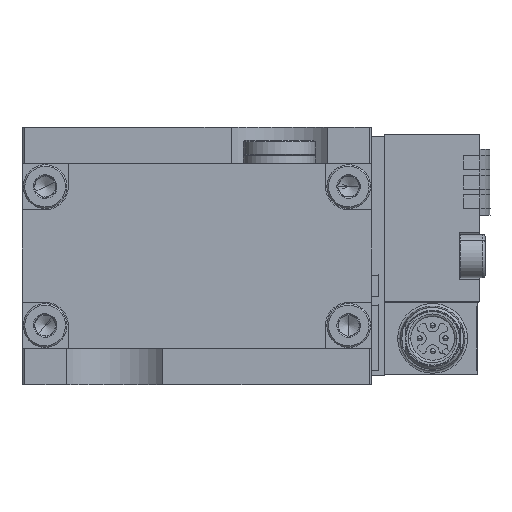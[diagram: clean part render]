
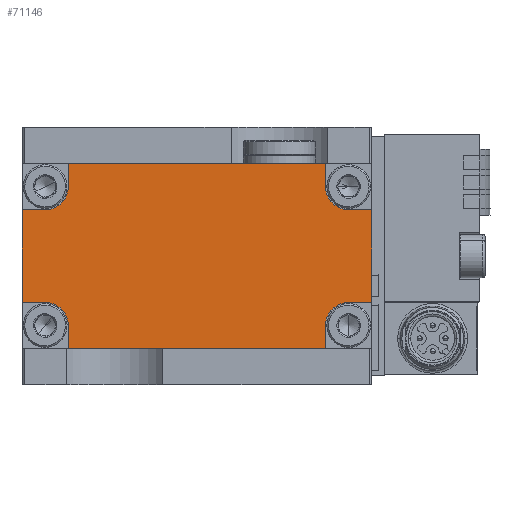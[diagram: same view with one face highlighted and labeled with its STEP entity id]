
A CAD part, front view. The second image highlights one B-rep face of the part: STEP entity #71146.
In plain terms, the highlighted planar face has unit normal (0, -1, 0).
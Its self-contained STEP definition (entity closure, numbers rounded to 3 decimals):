
#48 = ORIENTED_EDGE ( 'NONE', *, *, #70785, .F. ) ;
#230 = LINE ( 'NONE', #40573, #41054 ) ;
#1007 = EDGE_LOOP ( 'NONE', ( #48, #63358, #36615, #27541, #43648, #23048, #37932, #64831, #71268, #20960, #52073, #62107, #35056, #46012, #28988, #27210 ) ) ;
#2124 = CARTESIAN_POINT ( 'NONE',  ( 29.5, -170.65, 9. ) ) ;
#2286 = DIRECTION ( 'NONE',  ( -1., 0., 0. ) ) ;
#2306 = AXIS2_PLACEMENT_3D ( 'NONE', #62624, #35161, #15659 ) ;
#2506 = LINE ( 'NONE', #12687, #12091 ) ;
#2562 = CARTESIAN_POINT ( 'NONE',  ( 29.5, -170.65, -13.5 ) ) ;
#3382 = CARTESIAN_POINT ( 'NONE',  ( 25., -170.65, 13.5 ) ) ;
#3467 = EDGE_CURVE ( 'NONE', #29975, #29570, #56350, .T. ) ;
#3473 = CARTESIAN_POINT ( 'NONE',  ( -34., -170.65, -18. ) ) ;
#3806 = DIRECTION ( 'NONE',  ( 0., 0., -1. ) ) ;
#3825 = LINE ( 'NONE', #3473, #57568 ) ;
#4058 = EDGE_CURVE ( 'NONE', #15563, #38400, #36611, .T. ) ;
#5909 = VERTEX_POINT ( 'NONE', #34661 ) ;
#6116 = LINE ( 'NONE', #32149, #27417 ) ;
#6869 = CARTESIAN_POINT ( 'NONE',  ( -25., -170.65, -13.5 ) ) ;
#6997 = CARTESIAN_POINT ( 'NONE',  ( -25., -170.65, -18. ) ) ;
#7453 = DIRECTION ( 'NONE',  ( 0., 0., 1. ) ) ;
#7660 = DIRECTION ( 'NONE',  ( -1., 0., 0. ) ) ;
#8922 = CARTESIAN_POINT ( 'NONE',  ( 25., -170.65, -18. ) ) ;
#9806 = CARTESIAN_POINT ( 'NONE',  ( 34., -170.65, -9. ) ) ;
#9973 = DIRECTION ( 'NONE',  ( -1., 0., 0. ) ) ;
#11463 = LINE ( 'NONE', #50461, #47292 ) ;
#12091 = VECTOR ( 'NONE', #18095, 1000. ) ;
#12210 = EDGE_CURVE ( 'NONE', #38400, #33331, #15177, .T. ) ;
#12358 = CARTESIAN_POINT ( 'NONE',  ( -29.5, -170.65, 9. ) ) ;
#12687 = CARTESIAN_POINT ( 'NONE',  ( 29.5, -170.65, -9. ) ) ;
#13094 = DIRECTION ( 'NONE',  ( -1., 0., 0. ) ) ;
#13097 = CARTESIAN_POINT ( 'NONE',  ( -34., -170.65, 18. ) ) ;
#13165 = DIRECTION ( 'NONE',  ( 0., -1., 0. ) ) ;
#13822 = CARTESIAN_POINT ( 'NONE',  ( 25., -170.65, 13.5 ) ) ;
#14405 = CARTESIAN_POINT ( 'NONE',  ( -34., -170.65, 9. ) ) ;
#14808 = LINE ( 'NONE', #36443, #47547 ) ;
#14862 = AXIS2_PLACEMENT_3D ( 'NONE', #2562, #63951, #13094 ) ;
#15177 = CIRCLE ( 'NONE', #56656, 4.5 ) ;
#15379 = CARTESIAN_POINT ( 'NONE',  ( 29.5, -170.65, 13.5 ) ) ;
#15563 = VERTEX_POINT ( 'NONE', #56008 ) ;
#15659 = DIRECTION ( 'NONE',  ( -1., 0., 0. ) ) ;
#15822 = DIRECTION ( 'NONE',  ( -1., 0., 0. ) ) ;
#17019 = VECTOR ( 'NONE', #3806, 1000. ) ;
#17314 = EDGE_CURVE ( 'NONE', #62062, #69129, #65958, .T. ) ;
#17470 = VERTEX_POINT ( 'NONE', #50808 ) ;
#17663 = CARTESIAN_POINT ( 'NONE',  ( -25., -170.65, -13.5 ) ) ;
#18095 = DIRECTION ( 'NONE',  ( -1., 0., 0. ) ) ;
#19125 = EDGE_CURVE ( 'NONE', #33331, #5909, #6116, .T. ) ;
#19221 = PLANE ( 'NONE',  #35478 ) ;
#19999 = LINE ( 'NONE', #43079, #55082 ) ;
#20192 = VERTEX_POINT ( 'NONE', #9806 ) ;
#20624 = VERTEX_POINT ( 'NONE', #14405 ) ;
#20960 = ORIENTED_EDGE ( 'NONE', *, *, #54490, .F. ) ;
#21192 = CARTESIAN_POINT ( 'NONE',  ( 29.5, -170.65, -9. ) ) ;
#22126 = EDGE_CURVE ( 'NONE', #69129, #20624, #3825, .T. ) ;
#23048 = ORIENTED_EDGE ( 'NONE', *, *, #26499, .T. ) ;
#23598 = CARTESIAN_POINT ( 'NONE',  ( -25., -170.65, 13.5 ) ) ;
#23712 = CARTESIAN_POINT ( 'NONE',  ( -34., -170.65, -9. ) ) ;
#24276 = FACE_OUTER_BOUND ( 'NONE', #1007, .T. ) ;
#24806 = EDGE_CURVE ( 'NONE', #41305, #17470, #11463, .T. ) ;
#26499 = EDGE_CURVE ( 'NONE', #29975, #38024, #14808, .T. ) ;
#27210 = ORIENTED_EDGE ( 'NONE', *, *, #29974, .F. ) ;
#27417 = VECTOR ( 'NONE', #54204, 1000. ) ;
#27541 = ORIENTED_EDGE ( 'NONE', *, *, #44663, .F. ) ;
#27837 = VERTEX_POINT ( 'NONE', #53907 ) ;
#28204 = CIRCLE ( 'NONE', #31649, 4.5 ) ;
#28560 = VECTOR ( 'NONE', #29455, 1000. ) ;
#28988 = ORIENTED_EDGE ( 'NONE', *, *, #24806, .F. ) ;
#29455 = DIRECTION ( 'NONE',  ( -1., 0., 0. ) ) ;
#29570 = VERTEX_POINT ( 'NONE', #17663 ) ;
#29974 = EDGE_CURVE ( 'NONE', #30584, #41305, #28204, .T. ) ;
#29975 = VERTEX_POINT ( 'NONE', #6997 ) ;
#30150 = EDGE_CURVE ( 'NONE', #20192, #65236, #2506, .T. ) ;
#30584 = VERTEX_POINT ( 'NONE', #12358 ) ;
#30917 = CARTESIAN_POINT ( 'NONE',  ( 34., -170.65, 18. ) ) ;
#31649 = AXIS2_PLACEMENT_3D ( 'NONE', #62606, #13165, #2286 ) ;
#32149 = CARTESIAN_POINT ( 'NONE',  ( 29.5, -170.65, 9. ) ) ;
#33331 = VERTEX_POINT ( 'NONE', #2124 ) ;
#34661 = CARTESIAN_POINT ( 'NONE',  ( 34., -170.65, 9. ) ) ;
#35056 = ORIENTED_EDGE ( 'NONE', *, *, #4058, .F. ) ;
#35161 = DIRECTION ( 'NONE',  ( 0., -1., 0. ) ) ;
#35201 = EDGE_CURVE ( 'NONE', #15563, #17470, #63045, .T. ) ;
#35478 = AXIS2_PLACEMENT_3D ( 'NONE', #13097, #57131, #7660 ) ;
#36443 = CARTESIAN_POINT ( 'NONE',  ( -34., -170.65, -18. ) ) ;
#36611 = LINE ( 'NONE', #3382, #38692 ) ;
#36615 = ORIENTED_EDGE ( 'NONE', *, *, #17314, .F. ) ;
#36886 = CIRCLE ( 'NONE', #2306, 4.5 ) ;
#37373 = DIRECTION ( 'NONE',  ( 0., -1., 0. ) ) ;
#37860 = CIRCLE ( 'NONE', #14862, 4.5 ) ;
#37932 = ORIENTED_EDGE ( 'NONE', *, *, #53282, .F. ) ;
#38024 = VERTEX_POINT ( 'NONE', #8922 ) ;
#38400 = VERTEX_POINT ( 'NONE', #13822 ) ;
#38692 = VECTOR ( 'NONE', #43459, 1000. ) ;
#40573 = CARTESIAN_POINT ( 'NONE',  ( 25., -170.65, -13.5 ) ) ;
#41054 = VECTOR ( 'NONE', #62257, 1000. ) ;
#41305 = VERTEX_POINT ( 'NONE', #23598 ) ;
#43079 = CARTESIAN_POINT ( 'NONE',  ( -29.5, -170.65, 9. ) ) ;
#43459 = DIRECTION ( 'NONE',  ( 0., 0., -1. ) ) ;
#43648 = ORIENTED_EDGE ( 'NONE', *, *, #3467, .F. ) ;
#44464 = VECTOR ( 'NONE', #15822, 1000. ) ;
#44663 = EDGE_CURVE ( 'NONE', #29570, #62062, #36886, .T. ) ;
#45511 = DIRECTION ( 'NONE',  ( 0., 0., 1. ) ) ;
#46012 = ORIENTED_EDGE ( 'NONE', *, *, #35201, .T. ) ;
#47292 = VECTOR ( 'NONE', #7453, 1000. ) ;
#47295 = DIRECTION ( 'NONE',  ( 1., 0., 0. ) ) ;
#47547 = VECTOR ( 'NONE', #47295, 1000. ) ;
#47549 = DIRECTION ( 'NONE',  ( 0., 0., 1. ) ) ;
#50461 = CARTESIAN_POINT ( 'NONE',  ( -25., -170.65, 13.5 ) ) ;
#50808 = CARTESIAN_POINT ( 'NONE',  ( -25., -170.65, 18. ) ) ;
#52073 = ORIENTED_EDGE ( 'NONE', *, *, #19125, .F. ) ;
#53282 = EDGE_CURVE ( 'NONE', #27837, #38024, #230, .T. ) ;
#53907 = CARTESIAN_POINT ( 'NONE',  ( 25., -170.65, -13.5 ) ) ;
#54204 = DIRECTION ( 'NONE',  ( 1., 0., 0. ) ) ;
#54490 = EDGE_CURVE ( 'NONE', #5909, #20192, #69897, .T. ) ;
#55082 = VECTOR ( 'NONE', #64407, 1000. ) ;
#56008 = CARTESIAN_POINT ( 'NONE',  ( 25., -170.65, 18. ) ) ;
#56350 = LINE ( 'NONE', #6869, #60526 ) ;
#56656 = AXIS2_PLACEMENT_3D ( 'NONE', #15379, #37373, #9973 ) ;
#57131 = DIRECTION ( 'NONE',  ( 0., -1., 0. ) ) ;
#57568 = VECTOR ( 'NONE', #47549, 1000. ) ;
#57620 = CARTESIAN_POINT ( 'NONE',  ( 34., -170.65, 18. ) ) ;
#60526 = VECTOR ( 'NONE', #45511, 1000. ) ;
#60645 = EDGE_CURVE ( 'NONE', #65236, #27837, #37860, .T. ) ;
#61971 = CARTESIAN_POINT ( 'NONE',  ( -29.5, -170.65, -9. ) ) ;
#62062 = VERTEX_POINT ( 'NONE', #61971 ) ;
#62107 = ORIENTED_EDGE ( 'NONE', *, *, #12210, .F. ) ;
#62257 = DIRECTION ( 'NONE',  ( 0., 0., -1. ) ) ;
#62606 = CARTESIAN_POINT ( 'NONE',  ( -29.5, -170.65, 13.5 ) ) ;
#62624 = CARTESIAN_POINT ( 'NONE',  ( -29.5, -170.65, -13.5 ) ) ;
#63045 = LINE ( 'NONE', #57620, #28560 ) ;
#63358 = ORIENTED_EDGE ( 'NONE', *, *, #22126, .F. ) ;
#63951 = DIRECTION ( 'NONE',  ( 0., -1., 0. ) ) ;
#64407 = DIRECTION ( 'NONE',  ( 1., 0., 0. ) ) ;
#64831 = ORIENTED_EDGE ( 'NONE', *, *, #60645, .F. ) ;
#64909 = CARTESIAN_POINT ( 'NONE',  ( -29.5, -170.65, -9. ) ) ;
#65236 = VERTEX_POINT ( 'NONE', #21192 ) ;
#65958 = LINE ( 'NONE', #64909, #44464 ) ;
#69129 = VERTEX_POINT ( 'NONE', #23712 ) ;
#69897 = LINE ( 'NONE', #30917, #17019 ) ;
#70785 = EDGE_CURVE ( 'NONE', #20624, #30584, #19999, .T. ) ;
#71146 = ADVANCED_FACE ( 'NONE', ( #24276 ), #19221, .T. ) ;
#71268 = ORIENTED_EDGE ( 'NONE', *, *, #30150, .F. ) ;
